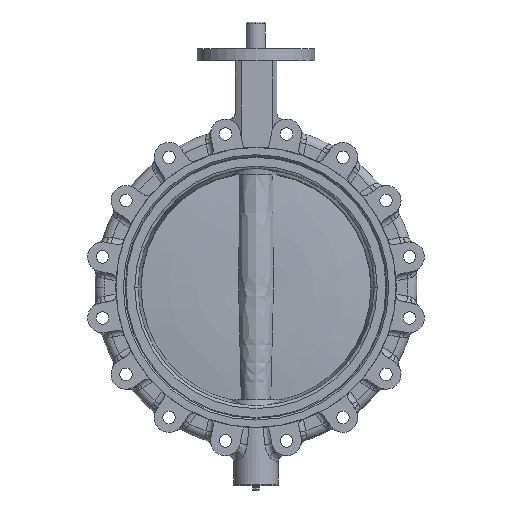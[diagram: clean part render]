
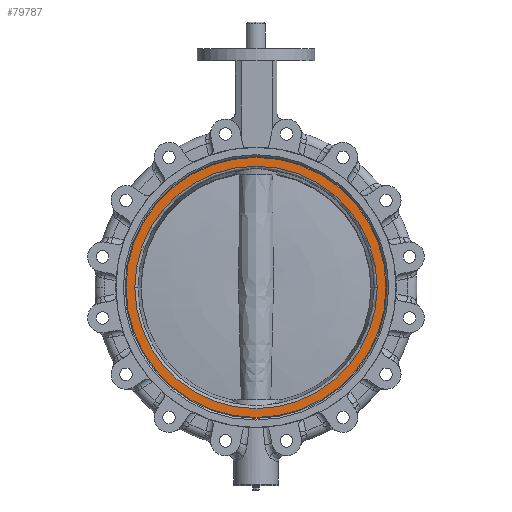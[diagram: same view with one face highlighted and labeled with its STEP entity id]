
A CAD part, left-side view. The second image highlights one B-rep face of the part: STEP entity #79787.
In plain terms, the highlighted planar face has unit normal (-1, 0, 0).
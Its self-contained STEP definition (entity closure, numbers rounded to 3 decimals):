
#76011 = TOROIDAL_SURFACE('',#76012,203.289,5.);
#76012 = AXIS2_PLACEMENT_3D('',#76013,#76014,#76015);
#76013 = CARTESIAN_POINT('',(-40.,-31.467,-26.343));
#76014 = DIRECTION('',(-1.,0.,0.));
#76015 = DIRECTION('',(0.,-1.,0.));
#77130 = EDGE_CURVE('',#77131,#77133,#77135,.T.);
#77131 = VERTEX_POINT('',#77132);
#77132 = CARTESIAN_POINT('',(-45.,-234.756,-26.343));
#77133 = VERTEX_POINT('',#77134);
#77134 = CARTESIAN_POINT('',(-45.,171.822,-26.343));
#77135 = SURFACE_CURVE('',#77136,(#77141,#77153),.PCURVE_S1.);
#77136 = CIRCLE('',#77137,203.289);
#77137 = AXIS2_PLACEMENT_3D('',#77138,#77139,#77140);
#77138 = CARTESIAN_POINT('',(-45.,-31.467,-26.343));
#77139 = DIRECTION('',(-1.,0.,0.));
#77140 = DIRECTION('',(0.,-1.,0.));
#77141 = PCURVE('',#77142,#77147);
#77142 = TOROIDAL_SURFACE('',#77143,203.289,5.);
#77143 = AXIS2_PLACEMENT_3D('',#77144,#77145,#77146);
#77144 = CARTESIAN_POINT('',(-40.,-31.467,-26.343));
#77145 = DIRECTION('',(-1.,0.,0.));
#77146 = DIRECTION('',(0.,-1.,0.));
#77147 = DEFINITIONAL_REPRESENTATION('',(#77148),#77152);
#77148 = LINE('',#77149,#77150);
#77149 = CARTESIAN_POINT('',(0.,1.571));
#77150 = VECTOR('',#77151,1.);
#77151 = DIRECTION('',(1.,0.));
#77152 = ( GEOMETRIC_REPRESENTATION_CONTEXT(2) 
PARAMETRIC_REPRESENTATION_CONTEXT() REPRESENTATION_CONTEXT('2D SPACE',''
  ) );
#77153 = PCURVE('',#77154,#77159);
#77154 = PLANE('',#77155);
#77155 = AXIS2_PLACEMENT_3D('',#77156,#77157,#77158);
#77156 = CARTESIAN_POINT('',(-45.,-31.467,191.857));
#77157 = DIRECTION('',(1.,0.,0.));
#77158 = DIRECTION('',(0.,1.,0.));
#77159 = DEFINITIONAL_REPRESENTATION('',(#77160),#77168);
#77160 = ( BOUNDED_CURVE() B_SPLINE_CURVE(2,(#77161,#77162,#77163,#77164
    ,#77165,#77166,#77167),.UNSPECIFIED.,.T.,.F.) 
B_SPLINE_CURVE_WITH_KNOTS((1,2,2,2,2,1),(-2.094,0.,
    2.094,4.189,6.283,8.378),
.UNSPECIFIED.) CURVE() GEOMETRIC_REPRESENTATION_ITEM() 
RATIONAL_B_SPLINE_CURVE((1.,0.5,1.,0.5,1.,0.5,1.)) REPRESENTATION_ITEM(
  '') );
#77161 = CARTESIAN_POINT('',(-203.289,-218.2));
#77162 = CARTESIAN_POINT('',(-203.289,133.907));
#77163 = CARTESIAN_POINT('',(101.645,-42.147));
#77164 = CARTESIAN_POINT('',(406.578,-218.2));
#77165 = CARTESIAN_POINT('',(101.645,-394.253));
#77166 = CARTESIAN_POINT('',(-203.289,-570.307));
#77167 = CARTESIAN_POINT('',(-203.289,-218.2));
#77168 = ( GEOMETRIC_REPRESENTATION_CONTEXT(2) 
PARAMETRIC_REPRESENTATION_CONTEXT() REPRESENTATION_CONTEXT('2D SPACE',''
  ) );
#77512 = CYLINDRICAL_SURFACE('',#77513,218.2);
#77513 = AXIS2_PLACEMENT_3D('',#77514,#77515,#77516);
#77514 = CARTESIAN_POINT('',(-95.611,-31.467,
    -26.343));
#77515 = DIRECTION('',(-1.,0.,0.));
#77516 = DIRECTION('',(0.,-1.,0.));
#77541 = VERTEX_POINT('',#77542);
#77542 = CARTESIAN_POINT('',(-45.,186.733,-26.343));
#77556 = CYLINDRICAL_SURFACE('',#77557,218.2);
#77557 = AXIS2_PLACEMENT_3D('',#77558,#77559,#77560);
#77558 = CARTESIAN_POINT('',(-95.611,-31.467,
    -26.343));
#77559 = DIRECTION('',(-1.,0.,0.));
#77560 = DIRECTION('',(0.,-1.,0.));
#77568 = EDGE_CURVE('',#77569,#77541,#77571,.T.);
#77569 = VERTEX_POINT('',#77570);
#77570 = CARTESIAN_POINT('',(-45.,-249.667,-26.343));
#77571 = SURFACE_CURVE('',#77572,(#77577,#77584),.PCURVE_S1.);
#77572 = CIRCLE('',#77573,218.2);
#77573 = AXIS2_PLACEMENT_3D('',#77574,#77575,#77576);
#77574 = CARTESIAN_POINT('',(-45.,-31.467,-26.343));
#77575 = DIRECTION('',(-1.,0.,0.));
#77576 = DIRECTION('',(0.,-1.,0.));
#77577 = PCURVE('',#77512,#77578);
#77578 = DEFINITIONAL_REPRESENTATION('',(#77579),#77583);
#77579 = LINE('',#77580,#77581);
#77580 = CARTESIAN_POINT('',(0.,-50.611));
#77581 = VECTOR('',#77582,1.);
#77582 = DIRECTION('',(1.,0.));
#77583 = ( GEOMETRIC_REPRESENTATION_CONTEXT(2) 
PARAMETRIC_REPRESENTATION_CONTEXT() REPRESENTATION_CONTEXT('2D SPACE',''
  ) );
#77584 = PCURVE('',#77154,#77585);
#77585 = DEFINITIONAL_REPRESENTATION('',(#77586),#77594);
#77586 = ( BOUNDED_CURVE() B_SPLINE_CURVE(2,(#77587,#77588,#77589,#77590
    ,#77591,#77592,#77593),.UNSPECIFIED.,.T.,.F.) 
B_SPLINE_CURVE_WITH_KNOTS((1,2,2,2,2,1),(-2.094,0.,
    2.094,4.189,6.283,8.378),
.UNSPECIFIED.) CURVE() GEOMETRIC_REPRESENTATION_ITEM() 
RATIONAL_B_SPLINE_CURVE((1.,0.5,1.,0.5,1.,0.5,1.)) REPRESENTATION_ITEM(
  '') );
#77587 = CARTESIAN_POINT('',(-218.2,-218.2));
#77588 = CARTESIAN_POINT('',(-218.2,159.733));
#77589 = CARTESIAN_POINT('',(109.1,-29.233));
#77590 = CARTESIAN_POINT('',(436.4,-218.2));
#77591 = CARTESIAN_POINT('',(109.1,-407.167));
#77592 = CARTESIAN_POINT('',(-218.2,-596.133));
#77593 = CARTESIAN_POINT('',(-218.2,-218.2));
#77594 = ( GEOMETRIC_REPRESENTATION_CONTEXT(2) 
PARAMETRIC_REPRESENTATION_CONTEXT() REPRESENTATION_CONTEXT('2D SPACE',''
  ) );
#79762 = EDGE_CURVE('',#77541,#77569,#79763,.T.);
#79763 = SURFACE_CURVE('',#79764,(#79769,#79776),.PCURVE_S1.);
#79764 = CIRCLE('',#79765,218.2);
#79765 = AXIS2_PLACEMENT_3D('',#79766,#79767,#79768);
#79766 = CARTESIAN_POINT('',(-45.,-31.467,-26.343));
#79767 = DIRECTION('',(-1.,0.,0.));
#79768 = DIRECTION('',(0.,-1.,0.));
#79769 = PCURVE('',#77556,#79770);
#79770 = DEFINITIONAL_REPRESENTATION('',(#79771),#79775);
#79771 = LINE('',#79772,#79773);
#79772 = CARTESIAN_POINT('',(0.,-50.611));
#79773 = VECTOR('',#79774,1.);
#79774 = DIRECTION('',(1.,0.));
#79775 = ( GEOMETRIC_REPRESENTATION_CONTEXT(2) 
PARAMETRIC_REPRESENTATION_CONTEXT() REPRESENTATION_CONTEXT('2D SPACE',''
  ) );
#79776 = PCURVE('',#77154,#79777);
#79777 = DEFINITIONAL_REPRESENTATION('',(#79778),#79786);
#79778 = ( BOUNDED_CURVE() B_SPLINE_CURVE(2,(#79779,#79780,#79781,#79782
    ,#79783,#79784,#79785),.UNSPECIFIED.,.T.,.F.) 
B_SPLINE_CURVE_WITH_KNOTS((1,2,2,2,2,1),(-2.094,0.,
    2.094,4.189,6.283,8.378),
.UNSPECIFIED.) CURVE() GEOMETRIC_REPRESENTATION_ITEM() 
RATIONAL_B_SPLINE_CURVE((1.,0.5,1.,0.5,1.,0.5,1.)) REPRESENTATION_ITEM(
  '') );
#79779 = CARTESIAN_POINT('',(-218.2,-218.2));
#79780 = CARTESIAN_POINT('',(-218.2,159.733));
#79781 = CARTESIAN_POINT('',(109.1,-29.233));
#79782 = CARTESIAN_POINT('',(436.4,-218.2));
#79783 = CARTESIAN_POINT('',(109.1,-407.167));
#79784 = CARTESIAN_POINT('',(-218.2,-596.133));
#79785 = CARTESIAN_POINT('',(-218.2,-218.2));
#79786 = ( GEOMETRIC_REPRESENTATION_CONTEXT(2) 
PARAMETRIC_REPRESENTATION_CONTEXT() REPRESENTATION_CONTEXT('2D SPACE',''
  ) );
#79787 = ADVANCED_FACE('',(#79788,#79817),#77154,.F.);
#79788 = FACE_BOUND('',#79789,.T.);
#79789 = EDGE_LOOP('',(#79790,#79791));
#79790 = ORIENTED_EDGE('',*,*,#77130,.F.);
#79791 = ORIENTED_EDGE('',*,*,#79792,.F.);
#79792 = EDGE_CURVE('',#77133,#77131,#79793,.T.);
#79793 = SURFACE_CURVE('',#79794,(#79799,#79810),.PCURVE_S1.);
#79794 = CIRCLE('',#79795,203.289);
#79795 = AXIS2_PLACEMENT_3D('',#79796,#79797,#79798);
#79796 = CARTESIAN_POINT('',(-45.,-31.467,-26.343));
#79797 = DIRECTION('',(-1.,0.,0.));
#79798 = DIRECTION('',(0.,-1.,0.));
#79799 = PCURVE('',#77154,#79800);
#79800 = DEFINITIONAL_REPRESENTATION('',(#79801),#79809);
#79801 = ( BOUNDED_CURVE() B_SPLINE_CURVE(2,(#79802,#79803,#79804,#79805
    ,#79806,#79807,#79808),.UNSPECIFIED.,.T.,.F.) 
B_SPLINE_CURVE_WITH_KNOTS((1,2,2,2,2,1),(-2.094,0.,
    2.094,4.189,6.283,8.378),
.UNSPECIFIED.) CURVE() GEOMETRIC_REPRESENTATION_ITEM() 
RATIONAL_B_SPLINE_CURVE((1.,0.5,1.,0.5,1.,0.5,1.)) REPRESENTATION_ITEM(
  '') );
#79802 = CARTESIAN_POINT('',(-203.289,-218.2));
#79803 = CARTESIAN_POINT('',(-203.289,133.907));
#79804 = CARTESIAN_POINT('',(101.645,-42.147));
#79805 = CARTESIAN_POINT('',(406.578,-218.2));
#79806 = CARTESIAN_POINT('',(101.645,-394.253));
#79807 = CARTESIAN_POINT('',(-203.289,-570.307));
#79808 = CARTESIAN_POINT('',(-203.289,-218.2));
#79809 = ( GEOMETRIC_REPRESENTATION_CONTEXT(2) 
PARAMETRIC_REPRESENTATION_CONTEXT() REPRESENTATION_CONTEXT('2D SPACE',''
  ) );
#79810 = PCURVE('',#76011,#79811);
#79811 = DEFINITIONAL_REPRESENTATION('',(#79812),#79816);
#79812 = LINE('',#79813,#79814);
#79813 = CARTESIAN_POINT('',(0.,1.571));
#79814 = VECTOR('',#79815,1.);
#79815 = DIRECTION('',(1.,0.));
#79816 = ( GEOMETRIC_REPRESENTATION_CONTEXT(2) 
PARAMETRIC_REPRESENTATION_CONTEXT() REPRESENTATION_CONTEXT('2D SPACE',''
  ) );
#79817 = FACE_BOUND('',#79818,.T.);
#79818 = EDGE_LOOP('',(#79819,#79820));
#79819 = ORIENTED_EDGE('',*,*,#77568,.T.);
#79820 = ORIENTED_EDGE('',*,*,#79762,.T.);
